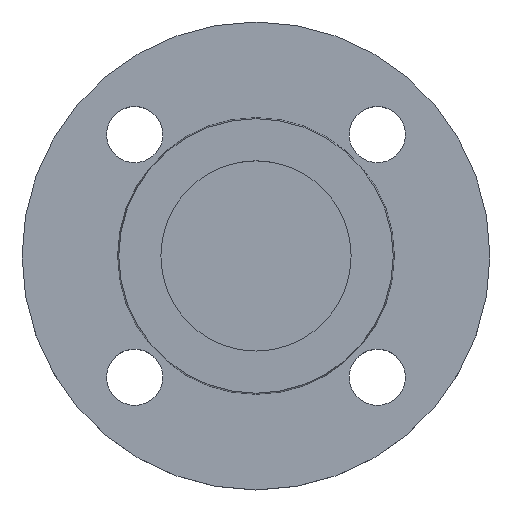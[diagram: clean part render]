
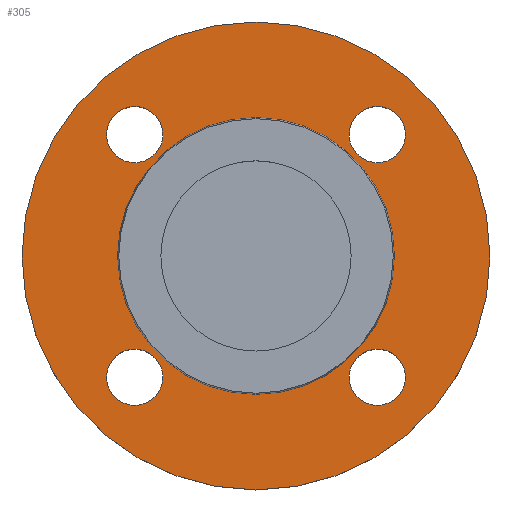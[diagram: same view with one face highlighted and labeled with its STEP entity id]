
A CAD part, top view. The second image highlights one B-rep face of the part: STEP entity #305.
In plain terms, the highlighted planar face has unit normal (0, 0, 1).
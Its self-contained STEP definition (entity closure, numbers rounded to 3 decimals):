
#6 = CIRCLE ( 'NONE', #14, 9. ) ;
#9 = AXIS2_PLACEMENT_3D ( 'NONE', #39, #42, #52 ) ;
#10 = AXIS2_PLACEMENT_3D ( 'NONE', #534, #535, #536 ) ;
#14 = AXIS2_PLACEMENT_3D ( 'NONE', #369, #371, #374 ) ;
#17 = EDGE_CURVE ( 'NONE', #204, #351, #6, .T. ) ;
#22 = CIRCLE ( 'NONE', #384, 75. ) ;
#36 = CIRCLE ( 'NONE', #245, 9. ) ;
#37 = VERTEX_POINT ( 'NONE', #378 ) ;
#39 = CARTESIAN_POINT ( 'NONE',  ( 38.891, 38.891, -2. ) ) ;
#42 = DIRECTION ( 'NONE',  ( 0., 0., -1. ) ) ;
#44 = AXIS2_PLACEMENT_3D ( 'NONE', #595, #596, #59 ) ;
#52 = DIRECTION ( 'NONE',  ( 1., 0., 0. ) ) ;
#59 = DIRECTION ( 'NONE',  ( -1., 0., 0. ) ) ;
#61 = CARTESIAN_POINT ( 'NONE',  ( 38.891, -38.891, -2. ) ) ;
#62 = DIRECTION ( 'NONE',  ( 0., 0., -1. ) ) ;
#63 = DIRECTION ( 'NONE',  ( 1., 0., 0. ) ) ;
#90 = EDGE_CURVE ( 'NONE', #339, #178, #162, .T. ) ;
#97 = CIRCLE ( 'NONE', #44, 44.353 ) ;
#100 = AXIS2_PLACEMENT_3D ( 'NONE', #102, #103, #104 ) ;
#101 = CIRCLE ( 'NONE', #100, 9. ) ;
#102 = CARTESIAN_POINT ( 'NONE',  ( -38.891, -38.891, -2. ) ) ;
#103 = DIRECTION ( 'NONE',  ( 0., 0., -1. ) ) ;
#104 = DIRECTION ( 'NONE',  ( 1., 0., 0. ) ) ;
#111 = AXIS2_PLACEMENT_3D ( 'NONE', #472, #473, #475 ) ;
#114 = CARTESIAN_POINT ( 'NONE',  ( 0., 0., -2. ) ) ;
#115 = DIRECTION ( 'NONE',  ( 0., 0., -1. ) ) ;
#116 = DIRECTION ( 'NONE',  ( -1., 0., 0. ) ) ;
#120 = CIRCLE ( 'NONE', #111, 9. ) ;
#138 = CIRCLE ( 'NONE', #144, 9. ) ;
#144 = AXIS2_PLACEMENT_3D ( 'NONE', #455, #456, #458 ) ;
#158 = CIRCLE ( 'NONE', #311, 75. ) ;
#159 = AXIS2_PLACEMENT_3D ( 'NONE', #587, #588, #590 ) ;
#160 = AXIS2_PLACEMENT_3D ( 'NONE', #412, #413, #414 ) ;
#162 = CIRCLE ( 'NONE', #160, 44.353 ) ;
#164 = EDGE_CURVE ( 'NONE', #329, #37, #138, .T. ) ;
#167 = EDGE_CURVE ( 'NONE', #213, #325, #158, .T. ) ;
#172 = CIRCLE ( 'NONE', #159, 9. ) ;
#173 = EDGE_CURVE ( 'NONE', #351, #204, #120, .T. ) ;
#178 = VERTEX_POINT ( 'NONE', #483 ) ;
#180 = EDGE_LOOP ( 'NONE', ( #250, #251 ) ) ;
#203 = EDGE_LOOP ( 'NONE', ( #252, #253 ) ) ;
#204 = VERTEX_POINT ( 'NONE', #490 ) ;
#213 = VERTEX_POINT ( 'NONE', #499 ) ;
#227 = VERTEX_POINT ( 'NONE', #500 ) ;
#236 = ORIENTED_EDGE ( 'NONE', *, *, #409, .T. ) ;
#237 = ORIENTED_EDGE ( 'NONE', *, *, #164, .T. ) ;
#240 = ORIENTED_EDGE ( 'NONE', *, *, #445, .T. ) ;
#245 = AXIS2_PLACEMENT_3D ( 'NONE', #579, #581, #582 ) ;
#246 = ORIENTED_EDGE ( 'NONE', *, *, #370, .T. ) ;
#248 = ORIENTED_EDGE ( 'NONE', *, *, #173, .T. ) ;
#249 = ORIENTED_EDGE ( 'NONE', *, *, #17, .T. ) ;
#250 = ORIENTED_EDGE ( 'NONE', *, *, #352, .T. ) ;
#251 = ORIENTED_EDGE ( 'NONE', *, *, #405, .T. ) ;
#252 = ORIENTED_EDGE ( 'NONE', *, *, #90, .T. ) ;
#253 = ORIENTED_EDGE ( 'NONE', *, *, #396, .T. ) ;
#255 = ORIENTED_EDGE ( 'NONE', *, *, #167, .F. ) ;
#256 = AXIS2_PLACEMENT_3D ( 'NONE', #61, #62, #63 ) ;
#257 = ORIENTED_EDGE ( 'NONE', *, *, #474, .F. ) ;
#305 = ADVANCED_FACE ( 'NONE', ( #525, #526, #528, #529, #530, #532 ), #533, .T. ) ;
#309 = CIRCLE ( 'NONE', #9, 9. ) ;
#311 = AXIS2_PLACEMENT_3D ( 'NONE', #459, #461, #462 ) ;
#316 = VERTEX_POINT ( 'NONE', #553 ) ;
#321 = VERTEX_POINT ( 'NONE', #555 ) ;
#325 = VERTEX_POINT ( 'NONE', #557 ) ;
#327 = EDGE_LOOP ( 'NONE', ( #255, #257 ) ) ;
#329 = VERTEX_POINT ( 'NONE', #559 ) ;
#335 = EDGE_LOOP ( 'NONE', ( #248, #249 ) ) ;
#337 = EDGE_LOOP ( 'NONE', ( #240, #246 ) ) ;
#339 = VERTEX_POINT ( 'NONE', #573 ) ;
#351 = VERTEX_POINT ( 'NONE', #578 ) ;
#352 = EDGE_CURVE ( 'NONE', #321, #227, #36, .T. ) ;
#353 = VERTEX_POINT ( 'NONE', #583 ) ;
#355 = EDGE_LOOP ( 'NONE', ( #236, #237 ) ) ;
#369 = CARTESIAN_POINT ( 'NONE',  ( -38.891, 38.891, -2. ) ) ;
#370 = EDGE_CURVE ( 'NONE', #353, #316, #172, .T. ) ;
#371 = DIRECTION ( 'NONE',  ( 0., 0., -1. ) ) ;
#374 = DIRECTION ( 'NONE',  ( 1., 0., 0. ) ) ;
#378 = CARTESIAN_POINT ( 'NONE',  ( 47.891, -38.891, -2. ) ) ;
#384 = AXIS2_PLACEMENT_3D ( 'NONE', #114, #115, #116 ) ;
#396 = EDGE_CURVE ( 'NONE', #178, #339, #97, .T. ) ;
#405 = EDGE_CURVE ( 'NONE', #227, #321, #309, .T. ) ;
#409 = EDGE_CURVE ( 'NONE', #37, #329, #589, .T. ) ;
#412 = CARTESIAN_POINT ( 'NONE',  ( 0., 0., -2. ) ) ;
#413 = DIRECTION ( 'NONE',  ( 0., 0., -1. ) ) ;
#414 = DIRECTION ( 'NONE',  ( -1., 0., 0. ) ) ;
#445 = EDGE_CURVE ( 'NONE', #316, #353, #101, .T. ) ;
#455 = CARTESIAN_POINT ( 'NONE',  ( 38.891, -38.891, -2. ) ) ;
#456 = DIRECTION ( 'NONE',  ( 0., 0., -1. ) ) ;
#458 = DIRECTION ( 'NONE',  ( 1., 0., 0. ) ) ;
#459 = CARTESIAN_POINT ( 'NONE',  ( 0., 0., -2. ) ) ;
#461 = DIRECTION ( 'NONE',  ( 0., 0., -1. ) ) ;
#462 = DIRECTION ( 'NONE',  ( -1., 0., 0. ) ) ;
#472 = CARTESIAN_POINT ( 'NONE',  ( -38.891, 38.891, -2. ) ) ;
#473 = DIRECTION ( 'NONE',  ( 0., 0., -1. ) ) ;
#474 = EDGE_CURVE ( 'NONE', #325, #213, #22, .T. ) ;
#475 = DIRECTION ( 'NONE',  ( 1., 0., 0. ) ) ;
#483 = CARTESIAN_POINT ( 'NONE',  ( 44.353, 0., -2. ) ) ;
#490 = CARTESIAN_POINT ( 'NONE',  ( -47.891, 38.891, -2. ) ) ;
#499 = CARTESIAN_POINT ( 'NONE',  ( 75., 0., -2. ) ) ;
#500 = CARTESIAN_POINT ( 'NONE',  ( 29.891, 38.891, -2. ) ) ;
#525 = FACE_BOUND ( 'NONE', #355, .T. ) ;
#526 = FACE_BOUND ( 'NONE', #337, .T. ) ;
#528 = FACE_BOUND ( 'NONE', #335, .T. ) ;
#529 = FACE_BOUND ( 'NONE', #180, .T. ) ;
#530 = FACE_BOUND ( 'NONE', #203, .T. ) ;
#532 = FACE_OUTER_BOUND ( 'NONE', #327, .T. ) ;
#533 = PLANE ( 'NONE',  #10 ) ;
#534 = CARTESIAN_POINT ( 'NONE',  ( 44.353, 0., -2. ) ) ;
#535 = DIRECTION ( 'NONE',  ( 0., 0., 1. ) ) ;
#536 = DIRECTION ( 'NONE',  ( 1., 0., 0. ) ) ;
#553 = CARTESIAN_POINT ( 'NONE',  ( -29.891, -38.891, -2. ) ) ;
#555 = CARTESIAN_POINT ( 'NONE',  ( 47.891, 38.891, -2. ) ) ;
#557 = CARTESIAN_POINT ( 'NONE',  ( -75., 0., -2. ) ) ;
#559 = CARTESIAN_POINT ( 'NONE',  ( 29.891, -38.891, -2. ) ) ;
#573 = CARTESIAN_POINT ( 'NONE',  ( -44.353, 0., -2. ) ) ;
#578 = CARTESIAN_POINT ( 'NONE',  ( -29.891, 38.891, -2. ) ) ;
#579 = CARTESIAN_POINT ( 'NONE',  ( 38.891, 38.891, -2. ) ) ;
#581 = DIRECTION ( 'NONE',  ( 0., 0., -1. ) ) ;
#582 = DIRECTION ( 'NONE',  ( 1., 0., 0. ) ) ;
#583 = CARTESIAN_POINT ( 'NONE',  ( -47.891, -38.891, -2. ) ) ;
#587 = CARTESIAN_POINT ( 'NONE',  ( -38.891, -38.891, -2. ) ) ;
#588 = DIRECTION ( 'NONE',  ( 0., 0., -1. ) ) ;
#589 = CIRCLE ( 'NONE', #256, 9. ) ;
#590 = DIRECTION ( 'NONE',  ( 1., 0., 0. ) ) ;
#595 = CARTESIAN_POINT ( 'NONE',  ( 0., 0., -2. ) ) ;
#596 = DIRECTION ( 'NONE',  ( 0., 0., -1. ) ) ;
